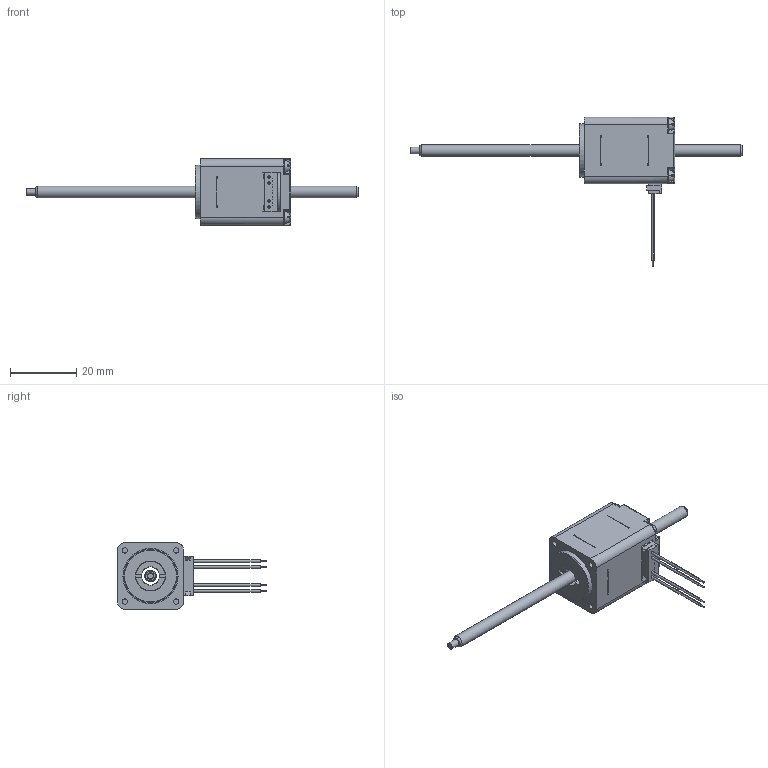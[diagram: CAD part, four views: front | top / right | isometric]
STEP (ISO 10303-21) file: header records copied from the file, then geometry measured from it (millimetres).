
FILE_DESCRIPTION( ('This file contains a STEP AP42 implementation' ,'as created by ZW3D STEP Interface translator.' ,'') ,'2;1' );
FILE_NAME( '21NA4X-XX-XXX.stp' ,'251231.143210', (''), ('ZWCAD Software Co.'), 'Version 1.0', 'ZW3D to STEP translator', '' );
FILE_SCHEMA(('AUTOMOTIVE_DESIGN { 1 0 10303 214 1 1 1 1 }'));
Length unit declared in the file: millimetre
Products named in the file (1): 0
Bounding box: 100 x 45 x 20 mm (x, y, z)
Volume: 6150.1 mm3; surface area: 8414.4 mm2
Topology: 2 solids, 2 shells, 552 faces, 1579 edges, 1010 vertices
Faces by surface type: plane 335, cylinder 145, bspline 50, torus 8, sphere 8, cone 6
Full cylindrical faces by diameter (mm): 0.67 x8, 1.6 x4, 2 x1, 2.2 x4, 3.56 x1, 5.5 x2, 9 x3, 12.24 x2, 16 x1, 16.6 x1
Entity records: 20904 total; most frequent: CARTESIAN_POINT 5849, ORIENTED_EDGE 3144, DIRECTION 2935, EDGE_CURVE 1572, VERTEX_POINT 1010, AXIS2_PLACEMENT_3D 986, VECTOR 963, LINE 963
